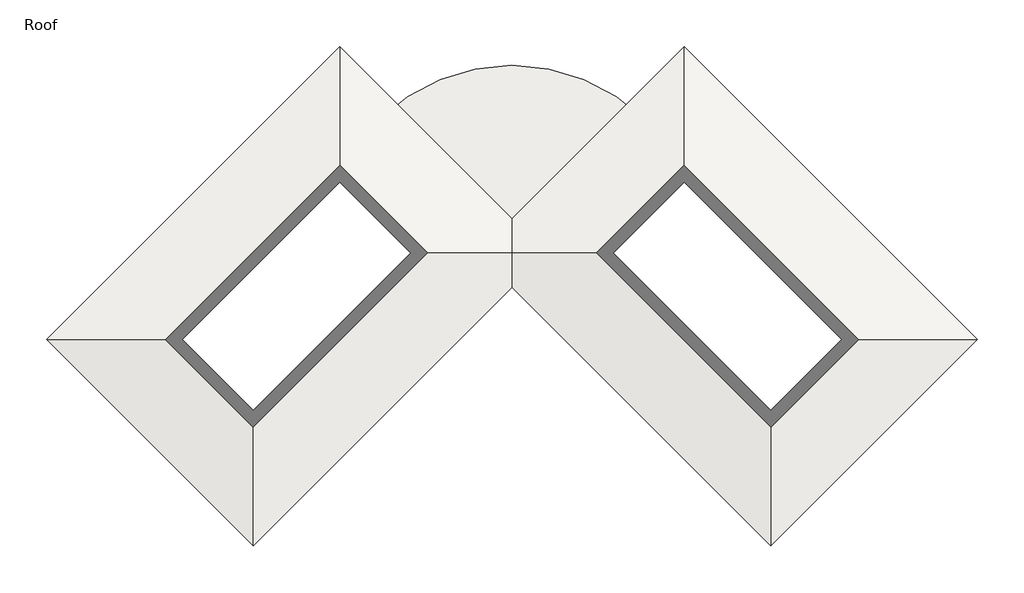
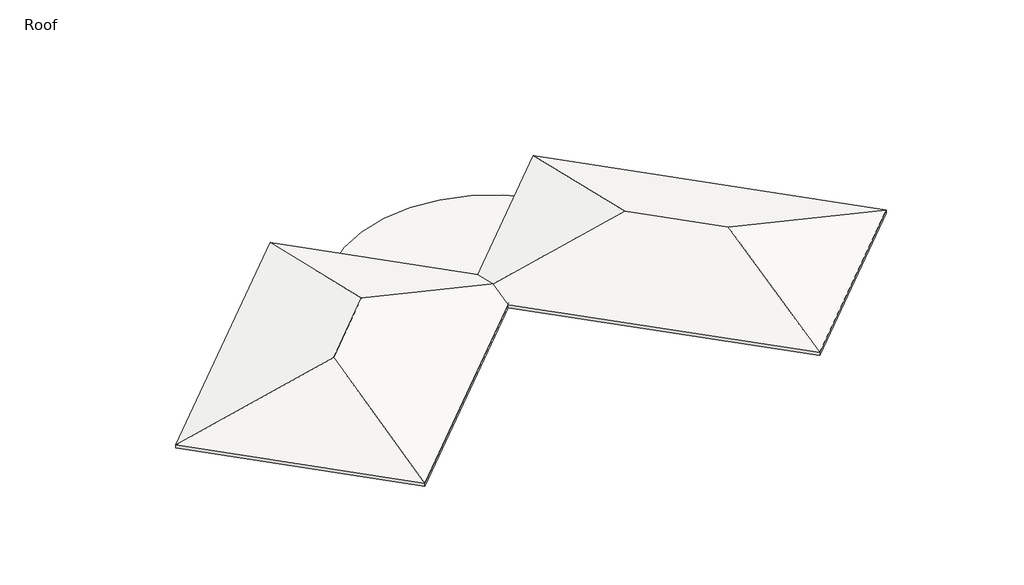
# One storey, incomplete: 7 proxies, 3 roofs.
"""IFC4 building model written with IfcOpenShell, lengths in millimetres."""

from ifc_helpers import new_model, si_unit, point, frame, frame_2d, origin, place, context, project, spatial, polyline, circle_curve, trimmed, segment, composite_curve, outline, extrude, faceted_brep, element, save

model = new_model("IFC4")

# Units and contexts
model_context = context("Model", 3, world=origin())
ifc_project = project(units=[si_unit("LENGTHUNIT", "METRE", prefix="MILLI")], contexts=[model_context])

# Site, building, storey
site = spatial("IfcSite", under=ifc_project)
building = spatial("IfcBuilding", under=site)
storey = spatial("IfcBuildingStorey", under=building, Name="Roof", Elevation=4572.0)

# Proxies
placement = place(None, origin())
element("IfcBuildingElementProxy", 1, Name="Wall Sweeps", at=placement, inside=storey, context=model_context, shape_type="Brep", body=[
    faceted_brep([(5178.0352806, 10404.2776392, 4635.5), (5178.0352806, 10799.4089085, 4673.6), (5178.0352806, 10979.014031, 4635.5), (5178.0352806, 10979.014031, 4572.0), (5178.0352806, 10404.2776392, 4572.0), (17570.7887277, -1988.4758079, 4635.5), (17570.7887277, -1988.4758079, 4572.0), (18145.5251194, -1988.4758079, 4572.0), (18145.5251194, -1988.4758079, 4635.5), (17965.919997, -1988.4758079, 4673.6)], [[[0, 1, 2, 3, 4]], [[5, 6, 7, 8, 9]], [[1, 0, 5, 9]], [[2, 1, 9, 8]], [[3, 2, 8, 7]], [[4, 3, 7, 6]], [[0, 4, 6, 5]]]),
])
element("IfcBuildingElementProxy", 2, Name="Wall Sweeps", at=placement, inside=storey, context=model_context, shape_type="Brep", body=[
    faceted_brep([(17570.7887277, -1988.4758079, 4635.5), (17965.919997, -1988.4758079, 4673.6), (18145.5251194, -1988.4758079, 4635.5), (18145.5251194, -1988.4758079, 4572.0), (17570.7887277, -1988.4758079, 4572.0), (9488.5582187, -10070.7063168, 4635.5), (9488.5582187, -10070.7063168, 4572.0), (9488.5582187, -10645.4427086, 4572.0), (9488.5582187, -10645.4427086, 4635.5), (9488.5582187, -10465.8375862, 4673.6)], [[[0, 1, 2, 3, 4]], [[5, 6, 7, 8, 9]], [[1, 0, 5, 9]], [[2, 1, 9, 8]], [[3, 2, 8, 7]], [[4, 3, 7, 6]], [[0, 4, 6, 5]]]),
])
element("IfcBuildingElementProxy", 3, Name="Wall Sweeps", at=placement, inside=storey, context=model_context, shape_type="Brep", body=[
    faceted_brep([(-3173.602912, 2591.4548139, 4635.5), (-3371.1685466, 2393.8891792, 4673.6), (-3460.9711079, 2304.086618, 4635.5), (-3460.9711079, 2304.086618, 4572.0), (-3173.602912, 2591.4548139, 4572.0), (-3422.8050193, 2840.6569212, 4635.5), (-3422.8050193, 2840.6569212, 4572.0), (-3710.1732152, 2553.2887254, 4572.0), (-3710.1732152, 2553.2887254, 4635.5), (-3620.370654, 2643.0912866, 4673.6)], [[[0, 1, 2, 3, 4]], [[5, 6, 7, 8, 9]], [[1, 0, 5, 9]], [[2, 1, 9, 8]], [[3, 2, 8, 7]], [[4, 3, 7, 6]], [[0, 4, 6, 5]]]),
    faceted_brep([(9488.5582187, -10070.7063168, 4635.5), (9488.5582187, -10465.8375862, 4673.6), (9488.5582187, -10645.4427086, 4635.5), (9488.5582187, -10645.4427086, 4572.0), (9488.5582187, -10070.7063168, 4572.0), (-2311.4983244, 1729.3502263, 4635.5), (-2311.4983244, 1729.3502263, 4572.0), (-2331.7039006, 1709.14465, 4572.0), (-2580.906008, 1459.9425426, 4572.0), (-2598.8665202, 1441.9820304, 4572.0), (-2598.8665202, 1441.9820304, 4635.5), (-2509.063959, 1531.7845916, 4673.6)], [[[0, 1, 2, 3, 4]], [[5, 6, 7, 8, 9, 10, 11]], [[1, 0, 5, 11]], [[2, 1, 11, 10]], [[3, 2, 10, 9]], [[4, 3, 9, 8, 7, 6]], [[0, 4, 6, 5]]]),
])
element("IfcBuildingElementProxy", 4, Name="Wall Sweeps", at=placement, inside=storey, context=model_context, shape_type="Brep", body=[
    faceted_brep([(-3712.4182792, 2591.4548139, 4635.5), (-3514.8526446, 2393.8891792, 4673.6), (-3425.0500834, 2304.086618, 4635.5), (-3425.0500834, 2304.086618, 4572.0), (-3443.0105956, 2322.0471303, 4572.0), (-3692.212703, 2571.2492376, 4572.0), (-3712.4182792, 2591.4548139, 4572.0), (-16374.5794099, -10070.7063168, 4635.5), (-16374.5794099, -10070.7063168, 4572.0), (-16374.5794099, -10645.4427086, 4572.0), (-16374.5794099, -10645.4427086, 4635.5), (-16374.5794099, -10465.8375862, 4673.6)], [[[0, 1, 2, 3, 4, 5, 6]], [[7, 8, 9, 10, 11]], [[1, 0, 7, 11]], [[2, 1, 11, 10]], [[3, 2, 10, 9]], [[6, 5, 4, 3, 9, 8]], [[0, 6, 8, 7]]]),
])
element("IfcBuildingElementProxy", 5, Name="Wall Sweeps", at=placement, inside=storey, context=model_context, shape_type="Brep", body=[
    faceted_brep([(-16374.5794099, -10070.7063168, 4635.5), (-16374.5794099, -10465.8375862, 4673.6), (-16374.5794099, -10645.4427086, 4635.5), (-16374.5794099, -10645.4427086, 4572.0), (-16374.5794099, -10070.7063168, 4572.0), (-24456.8099189, -1988.4758079, 4635.5), (-24456.8099189, -1988.4758079, 4572.0), (-25031.5463107, -1988.4758079, 4572.0), (-25031.5463107, -1988.4758079, 4635.5), (-24851.9411882, -1988.4758079, 4673.6)], [[[0, 1, 2, 3, 4]], [[5, 6, 7, 8, 9]], [[1, 0, 5, 9]], [[2, 1, 9, 8]], [[3, 2, 8, 7]], [[4, 3, 7, 6]], [[0, 4, 6, 5]]]),
])
element("IfcBuildingElementProxy", 6, Name="Wall Sweeps", at=placement, inside=storey, context=model_context, shape_type="Brep", body=[
    faceted_brep([(-24456.8099189, -1988.4758079, 4635.5), (-24851.9411882, -1988.4758079, 4673.6), (-25031.5463107, -1988.4758079, 4635.5), (-25031.5463107, -1988.4758079, 4572.0), (-24456.8099189, -1988.4758079, 4572.0), (-12064.0564718, 10404.2776392, 4635.5), (-12064.0564718, 10404.2776392, 4572.0), (-12064.0564718, 10979.014031, 4572.0), (-12064.0564718, 10979.014031, 4635.5), (-12064.0564718, 10799.4089085, 4673.6)], [[[0, 1, 2, 3, 4]], [[5, 6, 7, 8, 9]], [[1, 0, 5, 9]], [[2, 1, 9, 8]], [[3, 2, 8, 7]], [[4, 3, 7, 6]], [[0, 4, 6, 5]]]),
])
element("IfcBuildingElementProxy", 7, Name="Wall Sweeps", at=placement, inside=storey, context=model_context, shape_type="Brep", body=[
    faceted_brep([(-12064.0564718, 10404.2776392, 4635.5), (-12064.0564718, 10799.4089085, 4673.6), (-12064.0564718, 10979.014031, 4635.5), (-12064.0564718, 10979.014031, 4572.0), (-12064.0564718, 10404.2776392, 4572.0), (-9506.876139, 7847.0973064, 4635.5), (-9506.876139, 7847.0973064, 4572.0), (-9486.6705627, 7867.3028826, 4572.0), (-9237.4684553, 8116.50499, 4572.0), (-9219.5079431, 8134.4655022, 4572.0), (-9219.5079431, 8134.4655022, 4635.5), (-9309.3105043, 8044.662941, 4673.6), (-9411.2798641, 7942.6935812, 4653.9354839), (-9486.6705627, 7867.3028826, 4639.3965909)], [[[0, 1, 2, 3, 4]], [[5, 6, 7, 8, 9, 10, 11, 12, 13]], [[1, 0, 5, 13, 12, 11]], [[2, 1, 11, 10]], [[3, 2, 10, 9]], [[4, 3, 9, 8, 7, 6]], [[0, 4, 6, 5]]]),
])

# Roofs
element("IfcRoof", 8, ObjectType="Insulation on Metal Deck - EPDM", at=placement, inside=storey, context=model_context, shape_type="Brep", body=[
    faceted_brep([(-12064.0564718, 2322.0471303, 6604.0), (-12064.0564718, 12667.3021817, 4165.6), (-1718.8014204, 2322.0471303, 4165.6), (-26719.8344614, -1988.4758079, 4165.6), (-16374.5794099, -1988.4758079, 6604.0), (-16374.5794099, -12333.7308593, 4165.6), (-12064.0564718, 12667.3021817, 4373.0981191), (-12064.0564718, 2322.0471303, 6811.4981191), (-1718.8014204, 2322.0471303, 4373.0981191), (-26719.8344614, -1988.4758079, 4373.0981191), (-16374.5794099, -12333.7308593, 4373.0981191), (-16374.5794099, -1988.4758079, 6811.4981191)], [[[0, 1, 2]], [[3, 4, 5]], [[1, 0, 4, 3]], [[5, 4, 0, 2]], [[6, 7, 8]], [[9, 10, 11]], [[6, 9, 11, 7]], [[10, 8, 7, 11]], [[3, 9, 6, 1]], [[5, 10, 9, 3]], [[2, 8, 10, 5]], [[1, 6, 8, 2]]]),
])
element("IfcRoof", 9, ObjectType="Insulation on Metal Deck - EPDM", at=placement, inside=storey, context=model_context, shape_type="SweptSolid", body=[
    extrude(outline(composite_curve([segment(trimmed(circle_curve(frame_2d((-3443.0105956, 2272.6557216)), 9448.8), [point((-10081.5287644, 8996.4863235))], [point((3195.5075731, 8996.4863235))], False, "CARTESIAN"), True, "CONTINUOUS"), segment(polyline([(3195.5075731, 8996.4863235), (-3443.0105956, 2357.9681547), (-10081.5287644, 8996.4863235)]), True, "CONTINUOUS")], self_intersect=False)), frame((0.0, 0.0, 4165.6), z_axis=(0.0, 0.0, 1.0), x_axis=(1.0, 0.0, 0.0)), (0.0, 0.0, 1.0), 196.85),
])
element("IfcRoof", 10, ObjectType="Insulation on Metal Deck - EPDM", at=placement, inside=storey, context=model_context, shape_type="Brep", body=[
    faceted_brep([(5178.0352806, 12667.3021817, 4165.6), (5178.0352806, 2322.0471303, 6604.0), (-5167.2197709, 2322.0471303, 4165.6), (9488.5582187, -12333.7308593, 4165.6), (9488.5582187, -1988.4758079, 6604.0), (19833.8132702, -1988.4758079, 4165.6), (5178.0352806, 12667.3021817, 4373.0981191), (-5167.2197709, 2322.0471303, 4373.0981191), (5178.0352806, 2322.0471303, 6811.4981191), (9488.5582187, -12333.7308593, 4373.0981191), (19833.8132702, -1988.4758079, 4373.0981191), (9488.5582187, -1988.4758079, 6811.4981191)], [[[0, 1, 2]], [[3, 4, 5]], [[1, 0, 5, 4]], [[2, 1, 4, 3]], [[6, 7, 8]], [[9, 10, 11]], [[6, 8, 11, 10]], [[7, 9, 11, 8]], [[0, 6, 10, 5]], [[5, 10, 9, 3]], [[3, 9, 7, 2]], [[2, 7, 6, 0]]]),
])

save(model, "model.ifc")
